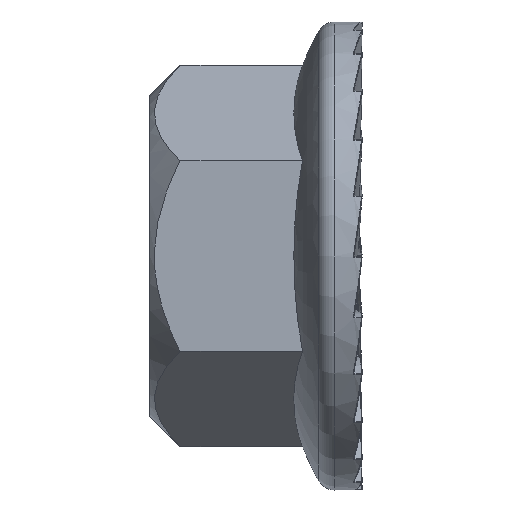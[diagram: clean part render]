
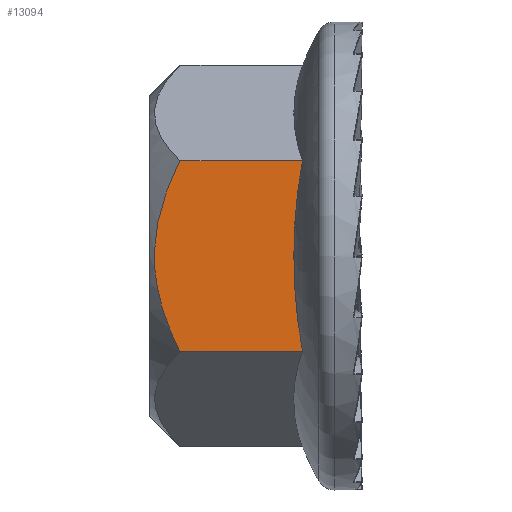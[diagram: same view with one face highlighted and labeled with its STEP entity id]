
A CAD part, left-side view. The second image highlights one B-rep face of the part: STEP entity #13094.
In plain terms, the highlighted planar face has unit normal (-1, 0, 0).
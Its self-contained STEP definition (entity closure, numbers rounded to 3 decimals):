
#309 = DIRECTION ( 'NONE',  ( 0., -1., 0. ) ) ;
#646 = CARTESIAN_POINT ( 'NONE',  ( -2.75, 3.4, 1.588 ) ) ;
#1340 = CARTESIAN_POINT ( 'NONE',  ( -2.75, 3.4, -1.588 ) ) ;
#1619 = CARTESIAN_POINT ( 'NONE',  ( -2.75, 2.9, -1.588 ) ) ;
#1946 = CARTESIAN_POINT ( 'NONE',  ( -2.75, 0.906, -1.327 ) ) ;
#1960 = CARTESIAN_POINT ( 'NONE',  ( -2.75, 3.4, -1.588 ) ) ;
#1961 = EDGE_CURVE ( 'NONE', #12845, #5996, #4291, .T. ) ;
#2160 = CARTESIAN_POINT ( 'NONE',  ( -2.75, 1., 0.536 ) ) ;
#2216 = EDGE_CURVE ( 'NONE', #5996, #12654, #12184, .T. ) ;
#2531 = CARTESIAN_POINT ( 'NONE',  ( -2.75, 3.023, -1.341 ) ) ;
#2592 = LINE ( 'NONE', #646, #10536 ) ;
#3274 = ORIENTED_EDGE ( 'NONE', *, *, #9785, .F. ) ;
#3391 = VECTOR ( 'NONE', #309, 1000. ) ;
#3527 = CARTESIAN_POINT ( 'NONE',  ( -2.75, 3.315, -0.277 ) ) ;
#3772 = CARTESIAN_POINT ( 'NONE',  ( -2.75, 0.855, -1.588 ) ) ;
#3866 = DIRECTION ( 'NONE',  ( 0., -1., 0. ) ) ;
#4047 = CARTESIAN_POINT ( 'NONE',  ( -2.75, 0.855, -1.588 ) ) ;
#4291 = B_SPLINE_CURVE_WITH_KNOTS ( 'NONE', 3,
 ( #11741, #7431, #6451, #4377, #5483, #9019, #11162, #5868, #3527, #4637, #6981, #8883, #2531, #13242 ),
 .UNSPECIFIED., .F., .F.,
 ( 4, 2, 2, 2, 2, 2, 4 ),
 ( 0.004, 0.004, 0.005, 0.006, 0.006, 0.006, 0.007 ),
 .UNSPECIFIED. ) ;
#4377 = CARTESIAN_POINT ( 'NONE',  ( -2.75, 3.122, 1.083 ) ) ;
#4637 = CARTESIAN_POINT ( 'NONE',  ( -2.75, 3.274, -0.55 ) ) ;
#4833 = ORIENTED_EDGE ( 'NONE', *, *, #2216, .T. ) ;
#5160 = CARTESIAN_POINT ( 'NONE',  ( -2.75, 0.855, 1.588 ) ) ;
#5251 = FACE_OUTER_BOUND ( 'NONE', #5477, .T. ) ;
#5477 = EDGE_LOOP ( 'NONE', ( #3274, #6722, #4833, #12365 ) ) ;
#5483 = CARTESIAN_POINT ( 'NONE',  ( -2.75, 3.169, 0.95 ) ) ;
#5868 = CARTESIAN_POINT ( 'NONE',  ( -2.75, 3.326, -0.137 ) ) ;
#5996 = VERTEX_POINT ( 'NONE', #1619 ) ;
#6192 = CARTESIAN_POINT ( 'NONE',  ( -2.75, 2.9, 1.588 ) ) ;
#6451 = CARTESIAN_POINT ( 'NONE',  ( -2.75, 3.019, 1.34 ) ) ;
#6460 = AXIS2_PLACEMENT_3D ( 'NONE', #1960, #6492, #7467 ) ;
#6492 = DIRECTION ( 'NONE',  ( 1., 0., 0. ) ) ;
#6620 = B_SPLINE_CURVE_WITH_KNOTS ( 'NONE', 3,
 ( #5160, #13626, #2160, #8351, #9324, #9536, #1946, #4047 ),
 .UNSPECIFIED., .F., .F.,
 ( 4, 2, 2, 4 ),
 ( 0.004, 0.005, 0.006, 0.007 ),
 .UNSPECIFIED. ) ;
#6722 = ORIENTED_EDGE ( 'NONE', *, *, #1961, .T. ) ;
#6981 = CARTESIAN_POINT ( 'NONE',  ( -2.75, 3.244, -0.684 ) ) ;
#7431 = CARTESIAN_POINT ( 'NONE',  ( -2.75, 2.961, 1.465 ) ) ;
#7467 = DIRECTION ( 'NONE',  ( 0., 0., -1. ) ) ;
#8351 = CARTESIAN_POINT ( 'NONE',  ( -2.75, 1., -0.263 ) ) ;
#8883 = CARTESIAN_POINT ( 'NONE',  ( -2.75, 3.131, -1.082 ) ) ;
#8964 = VERTEX_POINT ( 'NONE', #9994 ) ;
#9019 = CARTESIAN_POINT ( 'NONE',  ( -2.75, 3.282, 0.552 ) ) ;
#9324 = CARTESIAN_POINT ( 'NONE',  ( -2.75, 0.989, -0.532 ) ) ;
#9536 = CARTESIAN_POINT ( 'NONE',  ( -2.75, 0.942, -1.064 ) ) ;
#9785 = EDGE_CURVE ( 'NONE', #12845, #8964, #2592, .T. ) ;
#9994 = CARTESIAN_POINT ( 'NONE',  ( -2.75, 0.855, 1.588 ) ) ;
#10536 = VECTOR ( 'NONE', #3866, 1000. ) ;
#11162 = CARTESIAN_POINT ( 'NONE',  ( -2.75, 3.325, 0.28 ) ) ;
#11741 = CARTESIAN_POINT ( 'NONE',  ( -2.75, 2.9, 1.588 ) ) ;
#12184 = LINE ( 'NONE', #1340, #3391 ) ;
#12365 = ORIENTED_EDGE ( 'NONE', *, *, #12420, .F. ) ;
#12420 = EDGE_CURVE ( 'NONE', #8964, #12654, #6620, .T. ) ;
#12654 = VERTEX_POINT ( 'NONE', #3772 ) ;
#12757 = PLANE ( 'NONE',  #6460 ) ;
#12845 = VERTEX_POINT ( 'NONE', #6192 ) ;
#13094 = ADVANCED_FACE ( 'NONE', ( #5251 ), #12757, .F. ) ;
#13242 = CARTESIAN_POINT ( 'NONE',  ( -2.75, 2.9, -1.588 ) ) ;
#13626 = CARTESIAN_POINT ( 'NONE',  ( -2.75, 0.958, 1.064 ) ) ;
